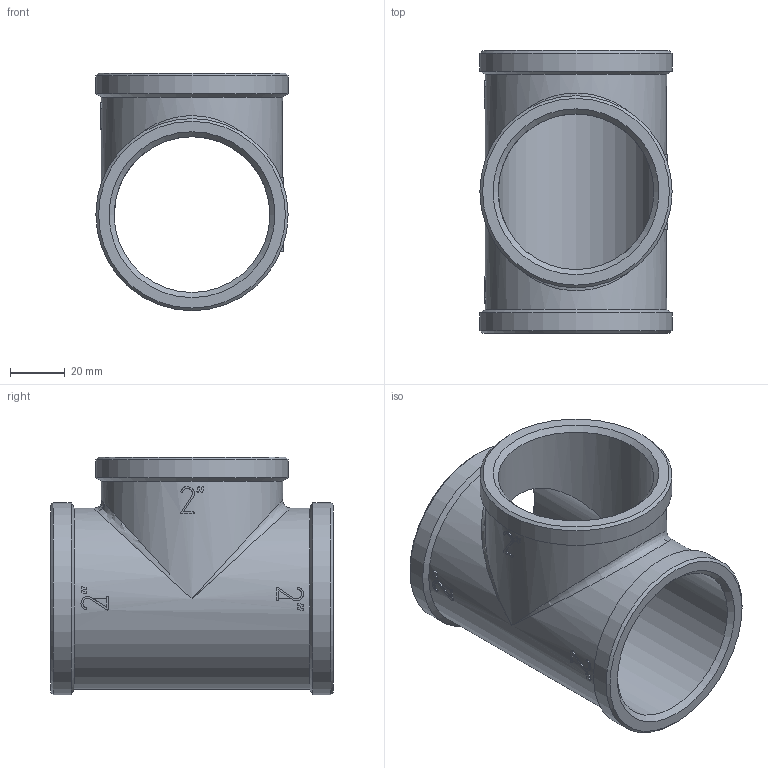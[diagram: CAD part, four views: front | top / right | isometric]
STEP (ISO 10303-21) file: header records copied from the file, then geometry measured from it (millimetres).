
FILE_DESCRIPTION(('STEP AP203'), '1');
FILE_NAME('ÂÐ.752243.007 - VTr.130.N.0009 - Ôèò. ðåçüá. òðîé', '2024-06-24T12:48:05', ('Boss'), (''), 'C3D Converter', 'C3D Toolkit', '');
FILE_SCHEMA(('CONFIG_CONTROL_DESIGN'));
Length unit declared in the file: millimetre
Products named in the file (1): ВР.752243.007
Bounding box: 70 x 103 x 86.5 mm (x, y, z)
Volume: 113300.2 mm3; surface area: 48702.5 mm2
Topology: 1 solids, 1 shells, 214 faces, 603 edges, 397 vertices
Faces by surface type: extrusion 117, plane 65, cylinder 21, cone 9, bspline 2
Full cylindrical faces by diameter (mm): 56.7 x2, 66 x2, 70 x3
Entity records: 10680 total; most frequent: CARTESIAN_POINT 6003, ORIENTED_EDGE 1138, DIRECTION 585, EDGE_CURVE 569, VERTEX_POINT 389, B_SPLINE_CURVE_WITH_KNOTS 362, VECTOR 319, EDGE_LOOP 242
